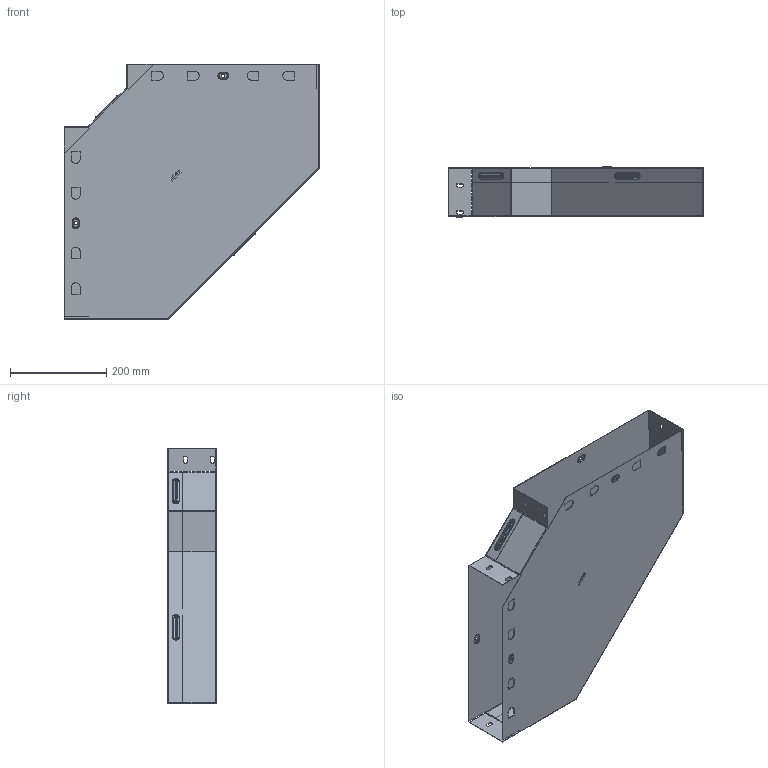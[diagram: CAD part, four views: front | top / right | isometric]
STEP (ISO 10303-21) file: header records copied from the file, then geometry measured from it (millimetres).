
FILE_DESCRIPTION (( 'STEP AP214' ), '1' );
FILE_NAME ('g90100400_捘.STEP', '2019-06-10T09:51:01', ( '砐錪賧瘔蠈錪 Windows' ), ( '' ), 'SwSTEP 2.0', 'SolidWorks 2018', '' );
FILE_SCHEMA (( 'AUTOMOTIVE_DESIGN' ));
Length unit declared in the file: millimetre
Products named in the file (1): g90100400_捘
Bounding box: 530.8 x 103.8 x 530.8 mm (x, y, z)
Volume: 447189.7 mm3; surface area: 1123493.8 mm2
Topology: 2 solids, 2 shells, 638 faces, 1806 edges, 1172 vertices
Faces by surface type: plane 384, cylinder 164, torus 64, bspline 26
Entity records: 22015 total; most frequent: CARTESIAN_POINT 5093, ORIENTED_EDGE 3612, DIRECTION 3376, EDGE_CURVE 1806, VECTOR 1334, LINE 1334, VERTEX_POINT 1172, AXIS2_PLACEMENT_3D 1021
